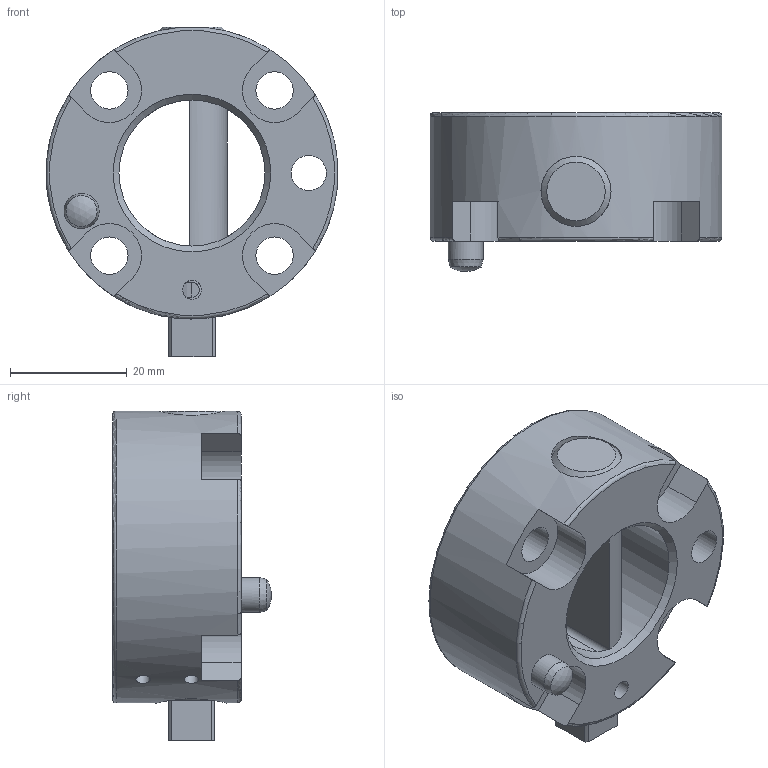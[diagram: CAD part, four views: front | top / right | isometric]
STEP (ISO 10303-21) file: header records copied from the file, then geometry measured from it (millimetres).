
FILE_DESCRIPTION((''),'2;1');
FILE_NAME('T:\CAD\Standard\Daten\3D-Datenbank\SWS\SWS050\step-Daten\G-SWS050-2O.stp','2011-08-18T13:31:14',('Yvonne'),(''),'Autodesk Inventor 2011','Autodesk Inventor 2011','');
FILE_SCHEMA(('AUTOMOTIVE_DESIGN { 1 0 10303 214 1 1 1 1 }'));
Length unit declared in the file: millimetre
Products named in the file (1): Bauteil1
Bounding box: 49.98 x 27.17 x 56.5 mm (x, y, z)
Volume: 28453.3 mm3; surface area: 11456 mm2
Topology: 1 solids, 1 shells, 90 faces, 249 edges, 164 vertices
Faces by surface type: plane 37, cylinder 36, cone 10, torus 5, sphere 2
Full cylindrical faces by diameter (mm): 2.459 x2, 3.242 x2, 5.8 x1, 6 x2, 6.4 x4, 11 x1, 12 x3, 25 x1, 50 x1
Entity records: 3115 total; most frequent: CARTESIAN_POINT 955, DIRECTION 408, ORIENTED_EDGE 386, EDGE_CURVE 193, AXIS2_PLACEMENT_3D 166, EDGE_LOOP 148, VERTEX_POINT 141, STYLED_ITEM 91
